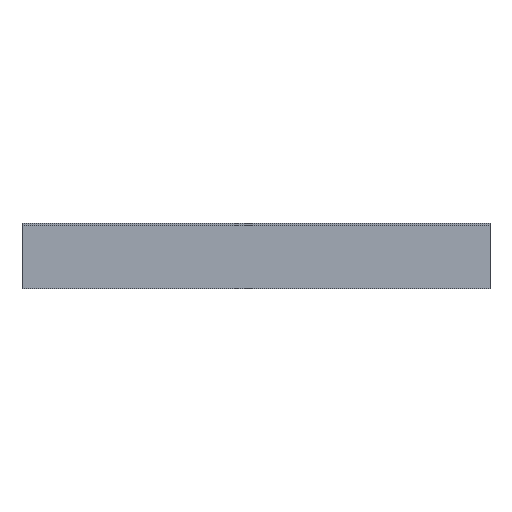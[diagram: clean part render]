
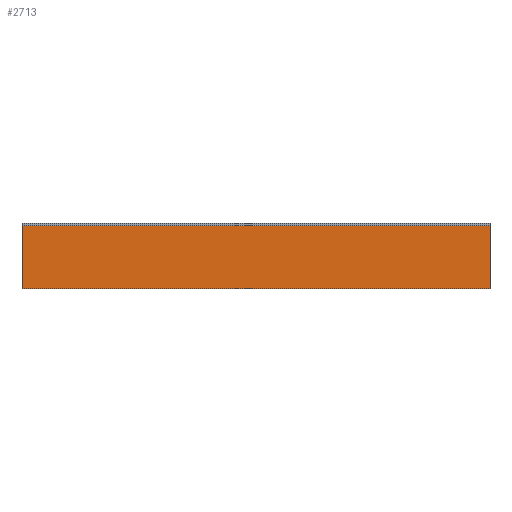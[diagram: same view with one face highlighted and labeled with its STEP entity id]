
A CAD part, front view. The second image highlights one B-rep face of the part: STEP entity #2713.
In plain terms, the highlighted planar face has unit normal (0, -1, 0).
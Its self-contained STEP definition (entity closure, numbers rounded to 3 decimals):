
#47 = CARTESIAN_POINT ( 'NONE',  ( -40.816, -20.102, 13.5 ) ) ;
#51 = VERTEX_POINT ( 'NONE', #909 ) ;
#118 = CARTESIAN_POINT ( 'NONE',  ( 59.184, -20.102, 0. ) ) ;
#137 = ORIENTED_EDGE ( 'NONE', *, *, #2291, .T. ) ;
#216 = VECTOR ( 'NONE', #2677, 1000. ) ;
#222 = LINE ( 'NONE', #362, #2779 ) ;
#318 = EDGE_LOOP ( 'NONE', ( #1361, #2445, #2332, #137 ) ) ;
#362 = CARTESIAN_POINT ( 'NONE',  ( -40.816, -20.102, 0. ) ) ;
#384 = VERTEX_POINT ( 'NONE', #2313 ) ;
#458 = VECTOR ( 'NONE', #2488, 1000. ) ;
#606 = CARTESIAN_POINT ( 'NONE',  ( 59.184, -20.102, 0. ) ) ;
#727 = DIRECTION ( 'NONE',  ( 0., 0., -1. ) ) ;
#856 = DIRECTION ( 'NONE',  ( 0., 0., 1. ) ) ;
#909 = CARTESIAN_POINT ( 'NONE',  ( 59.184, -20.102, 0. ) ) ;
#969 = VECTOR ( 'NONE', #727, 1000. ) ;
#977 = AXIS2_PLACEMENT_3D ( 'NONE', #606, #2586, #856 ) ;
#1109 = EDGE_CURVE ( 'NONE', #51, #384, #1742, .T. ) ;
#1307 = VERTEX_POINT ( 'NONE', #47 ) ;
#1361 = ORIENTED_EDGE ( 'NONE', *, *, #1960, .T. ) ;
#1557 = EDGE_CURVE ( 'NONE', #1796, #51, #2041, .T. ) ;
#1577 = PLANE ( 'NONE',  #977 ) ;
#1648 = FACE_OUTER_BOUND ( 'NONE', #318, .T. ) ;
#1707 = CARTESIAN_POINT ( 'NONE',  ( 59.184, -20.102, 0. ) ) ;
#1742 = LINE ( 'NONE', #1707, #458 ) ;
#1796 = VERTEX_POINT ( 'NONE', #2726 ) ;
#1809 = LINE ( 'NONE', #2404, #216 ) ;
#1960 = EDGE_CURVE ( 'NONE', #1307, #384, #222, .T. ) ;
#2041 = LINE ( 'NONE', #118, #969 ) ;
#2262 = DIRECTION ( 'NONE',  ( 0., 0., -1. ) ) ;
#2291 = EDGE_CURVE ( 'NONE', #1796, #1307, #1809, .T. ) ;
#2313 = CARTESIAN_POINT ( 'NONE',  ( -40.816, -20.102, 0. ) ) ;
#2332 = ORIENTED_EDGE ( 'NONE', *, *, #1557, .F. ) ;
#2404 = CARTESIAN_POINT ( 'NONE',  ( 59.184, -20.102, 13.5 ) ) ;
#2445 = ORIENTED_EDGE ( 'NONE', *, *, #1109, .F. ) ;
#2488 = DIRECTION ( 'NONE',  ( -1., 0., 0. ) ) ;
#2586 = DIRECTION ( 'NONE',  ( 0., 1., 0. ) ) ;
#2677 = DIRECTION ( 'NONE',  ( -1., 0., 0. ) ) ;
#2713 = ADVANCED_FACE ( 'NONE', ( #1648 ), #1577, .F. ) ;
#2726 = CARTESIAN_POINT ( 'NONE',  ( 59.184, -20.102, 13.5 ) ) ;
#2779 = VECTOR ( 'NONE', #2262, 1000. ) ;
